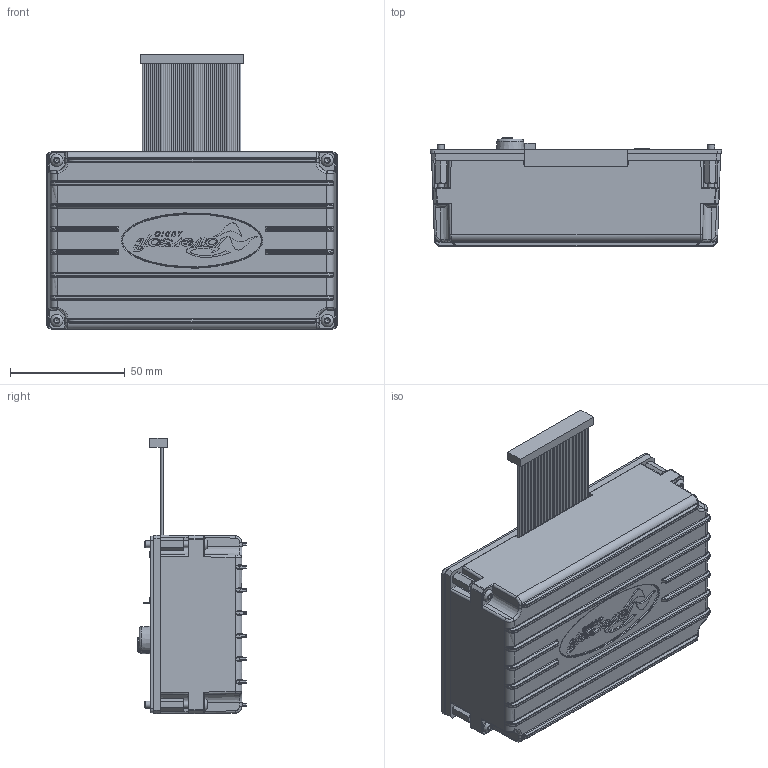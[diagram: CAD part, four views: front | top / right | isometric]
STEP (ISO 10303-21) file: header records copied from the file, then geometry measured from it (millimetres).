
FILE_DESCRIPTION(/* description */ (''),/* implementation_level */ '2;1');
FILE_NAME(/* name */ 'KTDSPL01.00.00',/* time_stamp */ '2016-11-08T11:22:55+01:00',/* author */ (''),/* organization */ (''),/* preprocessor_version */ 'ST-DEVELOPER v16.7',/* originating_system */ 'DEX',/* authorisation */ $);
FILE_SCHEMA (('AP242_MANAGED_MODEL_BASED_3D_ENGINEERING_MIM_LF { 1 0 10303 442 1 1 4 }','AUTOMOTIVE_DESIGN {1 0 10303 214 3 1 1}'));
Products named in the file (14): KTDSPL01.00.00; ME001036.00.04; ME001037.00.00; VI000104; VI000289; ME001049.00.01; DSPL0001; SCHEDA DA MP 090415; CB000601.00.00; assieme manopola; ME001046.00.00; cappuccio pulsante; GU000075.00.00; VI000092
Assembly tree (23 placements, depth 4):
  KTDSPL01.00.00
    ME001036.00.04
    ME001037.00.00
    VI000104  x4
    VI000289  x4
    ME001049.00.01
    DSPL0001
      SCHEDA DA MP 090415
      CB000601.00.00
      assieme manopola
        ME001046.00.00
      cappuccio pulsante
    GU000075.00.00
    VI000092  x4
    CB000601.00.00
Bounding box: 127 x 47.54 x 120.31 mm (x, y, z)
Volume: 110967.8 mm3; surface area: 126518.4 mm2
Topology: 154 solids, 154 shells, 4035 faces, 9129 edges, 5401 vertices
Faces by surface type: cylinder 1493, plane 1297, torus 784, bspline 353, sphere 59, cone 49
Full cylindrical faces by diameter (mm): 0.7 x18, 1.2 x4, 1.5 x4, 2.459 x8, 2.9 x4, 3 x19, 3.2 x4, 3.4 x4, 5.5 x8, 7 x2, 8.831 x1, 12.629 x1, 13.5 x1, 14.439 x1, 21.9 x2, 22.5 x2
Entity records: 99243 total; most frequent: CARTESIAN_POINT 27062, ORIENTED_EDGE 13294, DIRECTION 13180, EDGE_CURVE 6647, AXIS2_PLACEMENT_3D 5270, VERTEX_POINT 4088, FACE_BOUND 3189, EDGE_LOOP 3184
